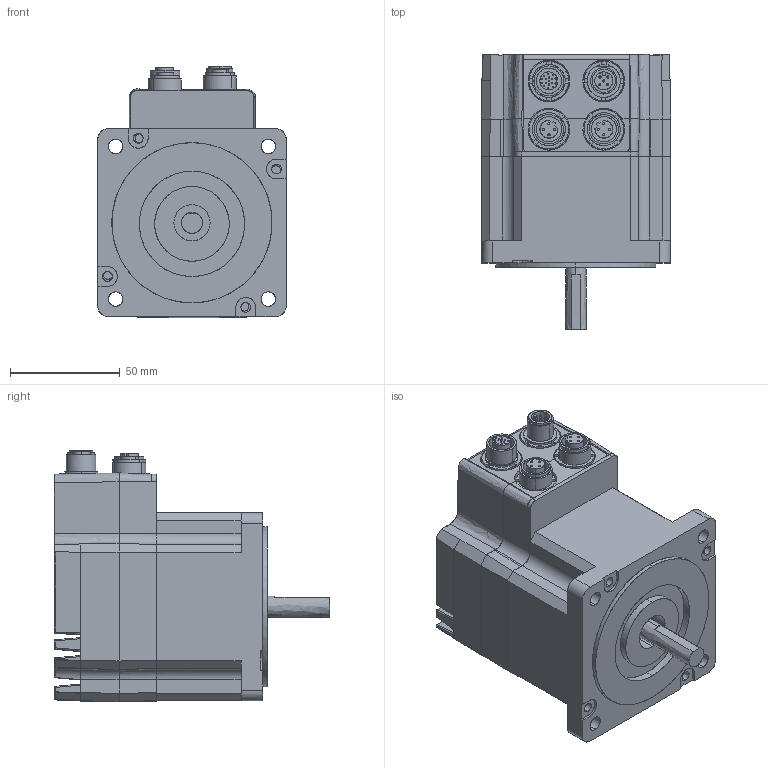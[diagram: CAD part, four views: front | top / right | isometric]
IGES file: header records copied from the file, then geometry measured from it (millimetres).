
Start section: Comment
Global section: file name: MIS340C12xxxx85.igs; native system:  By UGS Corp.; preprocessor: XPlus GENERIC/IGES 3.0; author: Author; organization: Title; date: 20130121.130610; units: millimetre
Bounding box: 86.54 x 125.5 x 114.57 mm (x, y, z)
Surface area: 107672.5 mm2 (no closed solid volume)
Topology: 0 solids, 0 shells, 1163 faces, 5685 edges, 5680 vertices
Faces by surface type: bspline 1163
